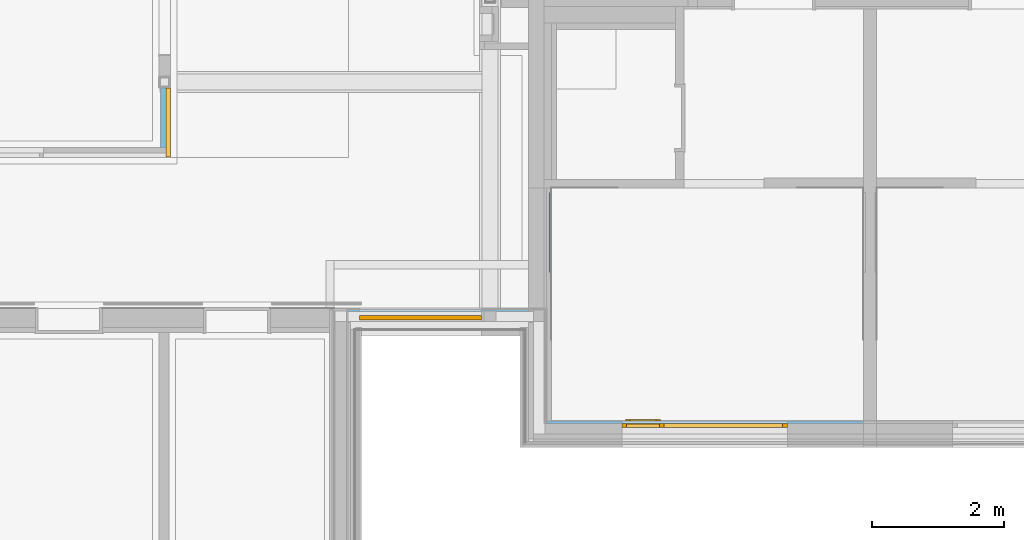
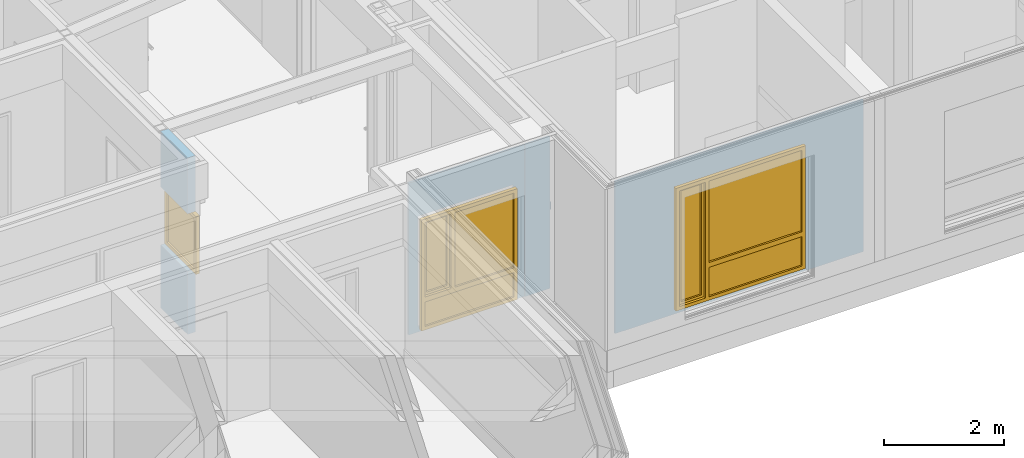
# One storey, part 120 of 207: 3 windows, 1 wall, 3 openings, plus 3 elements that do not belong to this part.
"""IFC4 building model written with IfcOpenShell, lengths in metres."""

from ifc_helpers import new_model, entity, si_unit, converted_unit, derived_unit, frame, frame_2d, origin, origin_with_axes, place, context, subcontext, project, spatial, polyline, rectangle, outline, extrude, closed_shell, open_shell, faceted_brep, surface_model, source, transform, mapped, material, element, fill, save


model = new_model("IFC4")

# Units and contexts
model_context = context("Model", 3, precision=1e-05, world=origin())
body_context = subcontext(model_context, "Body", "Model", "MODEL_VIEW")
ifc_project = project(units=[si_unit("LENGTHUNIT", "METRE"), si_unit("AREAUNIT", "SQUARE_METRE"), si_unit("VOLUMEUNIT", "CUBIC_METRE"), si_unit("MASSUNIT", "GRAM", prefix="KILO"), converted_unit("PLANEANGLEUNIT", "DEGREE", entity("IfcPlaneAngleMeasure", 0.0174532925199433), si_unit("PLANEANGLEUNIT", "RADIAN"), dimensions=[0, 0, 0, 0, 0, 0, 0]), derived_unit("THERMALTRANSMITTANCEUNIT", [(si_unit("POWERUNIT", "WATT"), 1), (si_unit("THERMODYNAMICTEMPERATUREUNIT", "KELVIN"), -1), (si_unit("LENGTHUNIT", "METRE"), -2)]), derived_unit("VOLUMETRICFLOWRATEUNIT", [(si_unit("LENGTHUNIT", "METRE"), 3), (converted_unit("TIMEUNIT", "hour", entity("IfcTimeMeasure", 3600.0), si_unit("TIMEUNIT", "SECOND"), dimensions=[0, 0, 1, 0, 0, 0, 0]), -1), (si_unit("LENGTHUNIT", "METRE"), -1)])], contexts=[model_context])

# Site, building, storey
site_placement = place(None, origin())
site = spatial("IfcSite", under=ifc_project, at=site_placement, Name="Psychiatrie Neubau Wunstorf", CompositionType="ELEMENT")
building_placement = place(site_placement, origin())
building = spatial("IfcBuilding", under=site, at=building_placement, Name="Neubau H2 Stationsgebäude", CompositionType="ELEMENT")
storey_placement = place(building_placement, frame((0.0, 0.0, -0.2)))
storey = spatial("IfcBuildingStorey", under=building, at=storey_placement, Name="H2 Ebene 0", CompositionType="ELEMENT", Elevation=-0.2)

# Wall, opening, window
ifc_material_1 = material(Name="WA-LB")
wall_1_placement = place(storey_placement, frame((75.9, -1.16399999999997, 0.5), z_axis=(0.0, 0.0, 1.0), x_axis=(-1.0, -1.5193062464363e-15, 0.0)))
wall_1 = element("IfcWall", 1, at=wall_1_placement, inside=storey, material=ifc_material_1, context=body_context, shape_type="SweptSolid", body=[
    extrude(rectangle(XDim=4.78899999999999, YDim=0.036, at=frame_2d((2.39449999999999, 0.018), x_axis=(1.0, 0.0))), origin_with_axes(), (0.0, 0.0, 1.0), 3.1),
])
opening_1_placement = place(wall_1_placement, frame((1.14999995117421, 0.0, 0.1), z_axis=(0.0, 1.0, 0.0), x_axis=(0.0, 0.0, 1.0)))
opening_1 = element("IfcOpeningElement", 2, at=opening_1_placement, cuts=wall_1, Name="Fensteröffnung", ObjectType="Opening", context=body_context, shape_type="SweptSolid", body=[
    extrude(outline(polyline([(2.5, 2.5), (2.5, 0.0), (0.0, 0.0), (0.0, 2.5), (2.5, 2.5)])), origin_with_axes(), (0.0, 0.0, 1.0), 0.036),
])
shared_shape_1 = source(origin_with_axes(), body_context, "Body", "SurfaceModel", [
    surface_model("IfcShellBasedSurfaceModel", [(2.5, 0.0, 2.5), (2.5, 0.0, 0.0), (2.43, 0.0, 0.0), (2.43, 0.0, 2.5), (2.5, 0.0699999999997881, 0.0), (2.5, 0.0699999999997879, 2.5), (2.43, 0.0699999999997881, 2.5), (2.43, 0.0699999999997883, 0.0)], [closed_shell([[[0, 1, 2, 3]], [[4, 5, 6, 7]], [[1, 0, 5, 4]], [[2, 1, 4, 7]], [[3, 2, 7, 6]], [[0, 3, 6, 5]]], orient=[[False], [False], [False], [False], [False], [False]])]),
    surface_model("IfcShellBasedSurfaceModel", [(0.07, 0.0, 2.5), (0.07, 0.0, 0.0), (0.0, 0.0, 0.0), (0.0, 0.0, 2.5), (0.07, 0.0699999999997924, 0.0), (0.07, 0.069999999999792, 2.5), (0.0, 0.069999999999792, 2.5), (0.0, 0.0699999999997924, 0.0)], [closed_shell([[[0, 1, 2, 3]], [[4, 5, 6, 7]], [[1, 0, 5, 4]], [[2, 1, 4, 7]], [[3, 2, 7, 6]], [[0, 3, 6, 5]]], orient=[[False], [False], [False], [False], [False], [False]])]),
    surface_model("IfcShellBasedSurfaceModel", [(2.43, 0.0, 0.07), (2.43, 0.0, 0.0), (0.07, 0.0, 0.0), (0.07, 0.0, 0.07), (2.43, 0.0699999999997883, 0.0), (2.43, 0.0699999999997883, 0.07), (0.07, 0.0699999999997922, 0.07), (0.07, 0.0699999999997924, 0.0)], [closed_shell([[[0, 1, 2, 3]], [[4, 5, 6, 7]], [[1, 0, 5, 4]], [[2, 1, 4, 7]], [[3, 2, 7, 6]], [[0, 3, 6, 5]]], orient=[[False], [False], [False], [False], [False], [False]])]),
    surface_model("IfcShellBasedSurfaceModel", [(2.43, 0.0, 2.5), (2.43, 0.0, 2.43), (0.07, 0.0, 2.43), (0.07, 0.0, 2.5), (2.43, 0.0699999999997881, 2.43), (2.43, 0.0699999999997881, 2.5), (0.07, 0.069999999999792, 2.5), (0.07, 0.069999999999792, 2.43)], [closed_shell([[[0, 1, 2, 3]], [[4, 5, 6, 7]], [[1, 0, 5, 4]], [[2, 1, 4, 7]], [[3, 2, 7, 6]], [[0, 3, 6, 5]]], orient=[[False], [False], [False], [False], [False], [False]])]),
    surface_model("IfcShellBasedSurfaceModel", [(1.934285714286, 0.0, 2.43), (1.934285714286, 0.0, 0.07), (1.864285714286, 0.0, 0.07), (1.864285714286, 0.0, 2.43), (1.934285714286, 0.0699999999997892, 0.07), (1.934285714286, 0.0699999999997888, 2.43), (1.864285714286, 0.0699999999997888, 2.43), (1.864285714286, 0.0699999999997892, 0.07)], [closed_shell([[[0, 1, 2, 3]], [[4, 5, 6, 7]], [[1, 0, 5, 4]], [[2, 1, 4, 7]], [[3, 2, 7, 6]], [[0, 3, 6, 5]]], orient=[[False], [False], [False], [False], [False], [False]])]),
    surface_model("IfcShellBasedSurfaceModel", [(2.45, -0.0500000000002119, 2.45), (2.45, -0.0500000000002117, 0.05), (2.38, -0.0500000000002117, 0.05), (2.38, -0.0500000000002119, 2.45), (2.45, 0.0199999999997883, 0.05), (2.45, 0.0199999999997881, 2.45), (2.38, 0.0199999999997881, 2.45), (2.38, 0.0199999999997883, 0.05)], [closed_shell([[[0, 1, 2, 3]], [[4, 5, 6, 7]], [[1, 0, 5, 4]], [[2, 1, 4, 7]], [[3, 2, 7, 6]], [[0, 3, 6, 5]]], orient=[[False], [False], [False], [False], [False], [False]])]),
    surface_model("IfcShellBasedSurfaceModel", [(1.984285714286, -0.0500000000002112, 2.45), (1.984285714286, -0.0500000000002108, 0.05), (1.914285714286, -0.0500000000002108, 0.05), (1.914285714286, -0.0500000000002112, 2.45), (1.984285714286, 0.019999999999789, 0.05), (1.984285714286, 0.0199999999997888, 2.45), (1.914285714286, 0.0199999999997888, 2.45), (1.914285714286, 0.0199999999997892, 0.05)], [closed_shell([[[0, 1, 2, 3]], [[4, 5, 6, 7]], [[1, 0, 5, 4]], [[2, 1, 4, 7]], [[3, 2, 7, 6]], [[0, 3, 6, 5]]], orient=[[False], [False], [False], [False], [False], [False]])]),
    surface_model("IfcShellBasedSurfaceModel", [(2.38, -0.0500000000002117, 0.12), (2.38, -0.0500000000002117, 0.05), (1.984285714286, -0.0500000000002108, 0.05), (1.984285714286, -0.050000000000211, 0.12), (2.38, 0.0199999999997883, 0.05), (2.38, 0.0199999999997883, 0.12), (1.984285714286, 0.019999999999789, 0.12), (1.984285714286, 0.019999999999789, 0.05)], [closed_shell([[[0, 1, 2, 3]], [[4, 5, 6, 7]], [[1, 0, 5, 4]], [[2, 1, 4, 7]], [[3, 2, 7, 6]], [[0, 3, 6, 5]]], orient=[[False], [False], [False], [False], [False], [False]])]),
    surface_model("IfcShellBasedSurfaceModel", [(2.38, -0.0500000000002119, 2.45), (2.38, -0.0500000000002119, 2.38), (1.984285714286, -0.0500000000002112, 2.38), (1.984285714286, -0.0500000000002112, 2.45), (2.38, 0.0199999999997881, 2.38), (2.38, 0.0199999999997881, 2.45), (1.984285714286, 0.0199999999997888, 2.45), (1.984285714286, 0.0199999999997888, 2.38)], [closed_shell([[[0, 1, 2, 3]], [[4, 5, 6, 7]], [[1, 0, 5, 4]], [[2, 1, 4, 7]], [[3, 2, 7, 6]], [[0, 3, 6, 5]]], orient=[[False], [False], [False], [False], [False], [False]])]),
    surface_model("IfcShellBasedSurfaceModel", [(1.864285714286, 0.0, 0.77), (1.864285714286, 0.0, 0.67), (0.07, 0.0, 0.67), (0.07, 0.0, 0.77), (1.864285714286, 0.069999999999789, 0.67), (1.864285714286, 0.069999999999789, 0.77), (0.07, 0.0699999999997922, 0.77), (0.07, 0.0699999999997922, 0.67)], [closed_shell([[[0, 1, 2, 3]], [[4, 5, 6, 7]], [[1, 0, 5, 4]], [[2, 1, 4, 7]], [[3, 2, 7, 6]], [[0, 3, 6, 5]]], orient=[[False], [False], [False], [False], [False], [False]])]),
    surface_model("IfcShellBasedSurfaceModel", [(2.38, -0.0150000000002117, 0.12), (1.984285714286, -0.015000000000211, 0.12), (1.984285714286, -0.0150000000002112, 2.38), (2.38, -0.0150000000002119, 2.38)], [open_shell([[[0, 1, 2, 3]]], orient=[[False]])]),
    surface_model("IfcShellBasedSurfaceModel", [(1.864285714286, 0.0349999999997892, 0.07), (0.07, 0.0349999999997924, 0.07), (0.07, 0.0349999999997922, 0.67), (1.864285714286, 0.034999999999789, 0.67)], [open_shell([[[0, 1, 2, 3]]], orient=[[False]])]),
    surface_model("IfcShellBasedSurfaceModel", [(1.864285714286, 0.034999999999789, 0.77), (0.07, 0.0349999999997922, 0.77), (0.07, 0.034999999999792, 2.43), (1.864285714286, 0.0349999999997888, 2.43)], [open_shell([[[0, 1, 2, 3]]], orient=[[False]])]),
])
window_1_placement = place(opening_1_placement, frame((0.0, 0.0, 0.03), z_axis=(1.0, 0.0, 0.0), x_axis=(0.0, 1.0, -6.41147235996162e-17)))
window_1 = element("IfcWindow", 3, at=window_1_placement, inside=storey, Name="Fenster", OverallHeight=2.5, OverallWidth=2.5, PartitioningType="USERDEFINED", PredefinedType="WINDOW", context=body_context, shape_type="MappedRepresentation", body=[
    mapped(shared_shape_1, transform((0.0, 0.0, 0.0), x_axis=(1.0, 0.0, 0.0), y_axis=(0.0, 1.0, 0.0), z_axis=(0.0, 0.0, 1.0), scale=1.0)),
])
fill(opening_1, window_1)

ifc_material_2 = material(Name="WA-LB")
wall_2_placement = place(storey_placement, frame((70.835, 0.523502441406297, 0.5), z_axis=(0.0, 0.0, 1.0), x_axis=(-1.0, 3.74997815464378e-16, 0.0)))
wall_2 = element("IfcWall", 4, at=wall_2_placement, inside=storey, material=ifc_material_2, context=body_context, shape_type="SweptSolid", body=[
    extrude(outline(polyline([(-2.72849999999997, -0.0360000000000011), (0.0, -0.0360000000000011), (0.0, 0.0), (-2.0224999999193, 0.0), (-2.0224999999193, -0.0124938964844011), (-2.0584999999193, -0.0124938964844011), (-2.0584999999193, -0.0125000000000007), (-2.23849999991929, -0.0125000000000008), (-2.23849999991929, 0.0), (-2.72849999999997, 0.0), (-2.72849999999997, -0.0360000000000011)])), frame((2.72849999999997, 0.0360000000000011, 0.0), z_axis=(0.0, 0.0, 1.0), x_axis=(1.0, 0.0, 0.0)), (0.0, 0.0, 1.0), 3.1),
])
opening_2_placement = place(wall_2_placement, frame((2.55400500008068, 0.0360000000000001, 0.1), z_axis=(0.0, -1.0, 0.0), x_axis=(0.0, 0.0, 1.0)))
opening_2 = element("IfcOpeningElement", 5, at=opening_2_placement, cuts=wall_2, Name="Fensteröffnung", ObjectType="Opening", context=body_context, shape_type="SweptSolid", body=[
    extrude(outline(polyline([(2.26, 1.848005), (2.26, 0.0), (0.0, 0.0), (0.0, 1.848005), (2.26, 1.848005)])), origin_with_axes(), (0.0, 0.0, 1.0), 0.0360000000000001),
])
shared_shape_2 = source(origin_with_axes(), body_context, "Body", "SurfaceModel", [
    surface_model("IfcShellBasedSurfaceModel", [(1.85662595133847, 0.000847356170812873, 2.26), (1.85662595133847, 0.000847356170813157, 0.0), (1.78662595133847, 0.0008473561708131, 0.0), (1.78662595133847, 0.000847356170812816, 2.26), (1.85662595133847, 0.0708473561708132, 0.0), (1.85662595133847, 0.0708473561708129, 2.26), (1.78662595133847, 0.0708473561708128, 2.26), (1.78662595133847, 0.0708473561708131, 0.0)], [closed_shell([[[0, 1, 2, 3]], [[4, 5, 6, 7]], [[1, 0, 5, 4]], [[2, 1, 4, 7]], [[3, 2, 7, 6]], [[0, 3, 6, 5]]], orient=[[False], [False], [False], [False], [False], [False]])]),
    surface_model("IfcShellBasedSurfaceModel", [(0.0786209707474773, 0.000847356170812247, 2.26), (0.0786209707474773, 0.000847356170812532, 0.0), (0.00862097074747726, 0.000847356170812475, 0.0), (0.00862097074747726, 0.000847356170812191, 2.26), (0.0786209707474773, 0.0708473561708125, 0.0), (0.0786209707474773, 0.0708473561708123, 2.26), (0.00862097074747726, 0.0708473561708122, 2.26), (0.00862097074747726, 0.0708473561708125, 0.0)], [closed_shell([[[0, 1, 2, 3]], [[4, 5, 6, 7]], [[1, 0, 5, 4]], [[2, 1, 4, 7]], [[3, 2, 7, 6]], [[0, 3, 6, 5]]], orient=[[False], [False], [False], [False], [False], [False]])]),
    surface_model("IfcShellBasedSurfaceModel", [(1.78662595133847, 0.0008473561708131, 0.07), (1.78662595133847, 0.0008473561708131, 0.0), (0.0786209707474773, 0.000847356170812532, 0.0), (0.0786209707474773, 0.000847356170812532, 0.07), (1.78662595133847, 0.0708473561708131, 0.0), (1.78662595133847, 0.0708473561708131, 0.07), (0.0786209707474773, 0.0708473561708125, 0.07), (0.0786209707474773, 0.0708473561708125, 0.0)], [closed_shell([[[0, 1, 2, 3]], [[4, 5, 6, 7]], [[1, 0, 5, 4]], [[2, 1, 4, 7]], [[3, 2, 7, 6]], [[0, 3, 6, 5]]], orient=[[False], [False], [False], [False], [False], [False]])]),
    surface_model("IfcShellBasedSurfaceModel", [(1.78662595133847, 0.000847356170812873, 2.26), (1.78662595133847, 0.000847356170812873, 2.19), (0.0786209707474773, 0.000847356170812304, 2.19), (0.0786209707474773, 0.000847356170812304, 2.26), (1.78662595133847, 0.0708473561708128, 2.19), (1.78662595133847, 0.0708473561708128, 2.26), (0.0786209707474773, 0.0708473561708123, 2.26), (0.0786209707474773, 0.0708473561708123, 2.19)], [closed_shell([[[0, 1, 2, 3]], [[4, 5, 6, 7]], [[1, 0, 5, 4]], [[2, 1, 4, 7]], [[3, 2, 7, 6]], [[0, 3, 6, 5]]], orient=[[False], [False], [False], [False], [False], [False]])]),
    surface_model("IfcShellBasedSurfaceModel", [(1.78662595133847, 0.000847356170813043, 0.67), (1.78662595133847, 0.000847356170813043, 0.57), (0.0786209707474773, 0.000847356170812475, 0.57), (0.0786209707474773, 0.000847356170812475, 0.67), (1.78662595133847, 0.070847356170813, 0.57), (1.78662595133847, 0.070847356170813, 0.67), (0.0786209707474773, 0.0708473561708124, 0.67), (0.0786209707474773, 0.0708473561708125, 0.57)], [closed_shell([[[0, 1, 2, 3]], [[4, 5, 6, 7]], [[1, 0, 5, 4]], [[2, 1, 4, 7]], [[3, 2, 7, 6]], [[0, 3, 6, 5]]], orient=[[False], [False], [False], [False], [False], [False]])]),
    surface_model("IfcShellBasedSurfaceModel", [(1.78662595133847, 0.0358473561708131, 0.07), (0.0786209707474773, 0.0358473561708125, 0.07), (0.0786209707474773, 0.0358473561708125, 0.57), (1.78662595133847, 0.035847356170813, 0.57)], [open_shell([[[0, 1, 2, 3]]], orient=[[False]])]),
    surface_model("IfcShellBasedSurfaceModel", [(1.28662595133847, 0.000847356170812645, 2.19), (1.28662595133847, 0.000847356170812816, 0.67), (1.21662595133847, 0.000847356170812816, 0.67), (1.21662595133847, 0.000847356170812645, 2.19), (1.28662595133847, 0.0708473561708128, 0.67), (1.28662595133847, 0.0708473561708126, 2.19), (1.21662595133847, 0.0708473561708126, 2.19), (1.21662595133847, 0.0708473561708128, 0.67)], [closed_shell([[[0, 1, 2, 3]], [[4, 5, 6, 7]], [[1, 0, 5, 4]], [[2, 1, 4, 7]], [[3, 2, 7, 6]], [[0, 3, 6, 5]]], orient=[[False], [False], [False], [False], [False], [False]])]),
    surface_model("IfcShellBasedSurfaceModel", [(1.80662595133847, -0.0491526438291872, 2.21), (1.80662595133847, -0.049152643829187, 0.65), (1.73662595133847, -0.049152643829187, 0.65), (1.73662595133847, -0.0491526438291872, 2.21), (1.80662595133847, 0.020847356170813, 0.65), (1.80662595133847, 0.0208473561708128, 2.21), (1.73662595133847, 0.0208473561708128, 2.21), (1.73662595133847, 0.020847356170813, 0.65)], [closed_shell([[[0, 1, 2, 3]], [[4, 5, 6, 7]], [[1, 0, 5, 4]], [[2, 1, 4, 7]], [[3, 2, 7, 6]], [[0, 3, 6, 5]]], orient=[[False], [False], [False], [False], [False], [False]])]),
    surface_model("IfcShellBasedSurfaceModel", [(1.33662595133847, -0.0491526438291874, 2.21), (1.33662595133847, -0.0491526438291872, 0.65), (1.26662595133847, -0.0491526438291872, 0.65), (1.26662595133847, -0.0491526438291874, 2.21), (1.33662595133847, 0.0208473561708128, 0.65), (1.33662595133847, 0.0208473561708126, 2.21), (1.26662595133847, 0.0208473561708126, 2.21), (1.26662595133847, 0.0208473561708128, 0.65)], [closed_shell([[[0, 1, 2, 3]], [[4, 5, 6, 7]], [[1, 0, 5, 4]], [[2, 1, 4, 7]], [[3, 2, 7, 6]], [[0, 3, 6, 5]]], orient=[[False], [False], [False], [False], [False], [False]])]),
    surface_model("IfcShellBasedSurfaceModel", [(1.73662595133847, -0.049152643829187, 0.72), (1.73662595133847, -0.049152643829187, 0.65), (1.33662595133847, -0.0491526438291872, 0.65), (1.33662595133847, -0.0491526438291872, 0.72), (1.73662595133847, 0.020847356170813, 0.65), (1.73662595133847, 0.020847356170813, 0.72), (1.33662595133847, 0.0208473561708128, 0.72), (1.33662595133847, 0.0208473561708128, 0.65)], [closed_shell([[[0, 1, 2, 3]], [[4, 5, 6, 7]], [[1, 0, 5, 4]], [[2, 1, 4, 7]], [[3, 2, 7, 6]], [[0, 3, 6, 5]]], orient=[[False], [False], [False], [False], [False], [False]])]),
    surface_model("IfcShellBasedSurfaceModel", [(1.73662595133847, -0.0491526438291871, 2.21), (1.73662595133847, -0.0491526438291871, 2.14), (1.33662595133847, -0.0491526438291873, 2.14), (1.33662595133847, -0.0491526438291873, 2.21), (1.73662595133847, 0.0208473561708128, 2.14), (1.73662595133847, 0.0208473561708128, 2.21), (1.33662595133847, 0.0208473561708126, 2.21), (1.33662595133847, 0.0208473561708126, 2.14)], [closed_shell([[[0, 1, 2, 3]], [[4, 5, 6, 7]], [[1, 0, 5, 4]], [[2, 1, 4, 7]], [[3, 2, 7, 6]], [[0, 3, 6, 5]]], orient=[[False], [False], [False], [False], [False], [False]])]),
    surface_model("IfcShellBasedSurfaceModel", [(1.21662595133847, 0.0358473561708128, 0.67), (0.0786209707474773, 0.0358473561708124, 0.67), (0.0786209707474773, 0.0358473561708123, 2.19), (1.21662595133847, 0.0358473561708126, 2.19)], [open_shell([[[0, 1, 2, 3]]], orient=[[False]])]),
    surface_model("IfcShellBasedSurfaceModel", [(1.73662595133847, -0.014152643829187, 0.72), (1.33662595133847, -0.0141526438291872, 0.72), (1.33662595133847, -0.0141526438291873, 2.14), (1.73662595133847, -0.0141526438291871, 2.14)], [open_shell([[[0, 1, 2, 3]]], orient=[[False]])]),
])
window_2_placement = place(opening_2_placement, frame((0.0, 1.85662595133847, -0.0581521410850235), z_axis=(1.0, 0.0, 0.0), x_axis=(0.0, -1.0, -2.25654857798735e-17)))
window_2 = element("IfcWindow", 6, at=window_2_placement, inside=storey, Name="Fenster", OverallHeight=2.26, OverallWidth=1.848, PartitioningType="USERDEFINED", PredefinedType="WINDOW", context=body_context, shape_type="MappedRepresentation", body=[
    mapped(shared_shape_2, transform((0.0, 0.0, 0.0), x_axis=(1.0, 0.0, 0.0), y_axis=(0.0, 1.0, 0.0), z_axis=(0.0, 0.0, 1.0), scale=1.0)),
])
fill(opening_2, window_2)

# Wall
wall_3_placement = place(storey_placement, frame((71.161, 1.08720000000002, 1.625)))
element("IfcWall", 7, at=wall_3_placement, inside=storey, Name="WV 1.1", context=body_context, shape_type="Brep", body=[
    faceted_brep([(0.025, 1.2, 0.0), (0.0, 1.2, 0.0), (0.0, 0.0, 0.0), (0.025, 0.0, 0.0), (0.0, 1.2, 0.15), (0.025, 1.2, 0.15), (0.025, 0.0, 0.15), (0.0, 0.0, 0.15)], [[[0, 1, 2, 3]], [[4, 5, 6, 7]], [[1, 0, 5, 4]], [[2, 1, 4, 7]], [[3, 2, 7, 6]], [[0, 3, 6, 5]]], orient=[[False], [False], [False], [False], [False], [False]]),
])

# Wall, opening, window
ifc_material_3 = material(Name="WI-RIR")
wall_4_placement = place(storey_placement, frame((65.4249963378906, 2.96750096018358, 0.0), z_axis=(0.0, 0.0, 1.0), x_axis=(0.0, 1.0, 0.0)))
wall_4 = element("IfcWall", 8, at=wall_4_placement, inside=storey, material=ifc_material_3, context=body_context, shape_type="SweptSolid", body=[
    extrude(outline(polyline([(0.0, -0.15), (0.902495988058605, -0.15), (0.902495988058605, 0.0), (3.80844783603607e-06, 0.0), (0.0, -0.15)])), frame((0.0, 0.15, 0.0), z_axis=(0.0, 0.0, 1.0), x_axis=(1.0, 0.0, 0.0)), (0.0, 0.0, 1.0), 3.6),
])
opening_3_placement = place(wall_4_placement, frame((-0.150000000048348, 0.0, 1.28)))
opening_3 = element("IfcOpeningElement", 9, at=opening_3_placement, cuts=wall_4, Name="Fensteröffnung", ObjectType="Opening", context=body_context, shape_type="SweptSolid", body=[
    extrude(outline(polyline([(0.0, 0.0), (1.05249598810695, 0.0), (1.05249598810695, 0.15), (3.80844783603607e-06, 0.15), (0.0, 0.0)])), origin_with_axes(), (0.0, 0.0, 1.0), 1.18),
])
shared_shape_3 = source(origin_with_axes(), body_context, "Body", "SurfaceModel", [
    surface_model("IfcShellBasedSurfaceModel", [(0.0, 0.0, 0.0), (0.0, 0.0, 1.18), (0.07, 0.0, 1.18), (0.07, 0.0, 0.0), (0.07, 0.07, 1.18), (0.07, 0.07, 0.0), (0.0, 0.07, 1.18), (0.0, 0.07, 0.0)], [closed_shell([[[0, 1, 2, 3]], [[3, 2, 4, 5]], [[5, 4, 6, 7]], [[7, 6, 1, 0]], [[0, 3, 5, 7]], [[1, 6, 4, 2]]], orient=[[False], [False], [False], [False], [False], [False]])]),
    surface_model("IfcShellBasedSurfaceModel", [(0.972495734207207, 0.0, 0.0), (0.972495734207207, 0.0, 1.18), (1.04249573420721, 0.0, 1.18), (1.04249573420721, 0.0, 0.0), (1.04249573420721, 0.07, 1.18), (1.04249573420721, 0.07, 0.0), (0.972495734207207, 0.07, 1.18), (0.972495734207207, 0.07, 0.0)], [closed_shell([[[0, 1, 2, 3]], [[3, 2, 4, 5]], [[5, 4, 6, 7]], [[7, 6, 1, 0]], [[0, 3, 5, 7]], [[1, 6, 4, 2]]], orient=[[False], [False], [False], [False], [False], [False]])]),
    surface_model("IfcShellBasedSurfaceModel", [(0.07, 0.07, 0.0), (0.07, 0.0, 0.0), (0.972495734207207, 0.0, 0.0), (0.972495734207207, 0.07, 0.0), (0.07, 0.0, 0.07), (0.07, 0.07, 0.07), (0.972495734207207, 0.07, 0.07), (0.972495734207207, 0.0, 0.07)], [closed_shell([[[0, 1, 2, 3]], [[4, 5, 6, 7]], [[1, 0, 5, 4]], [[2, 1, 4, 7]], [[3, 2, 7, 6]], [[0, 3, 6, 5]]], orient=[[False], [False], [False], [False], [False], [False]])]),
    surface_model("IfcShellBasedSurfaceModel", [(0.07, 0.07, 1.11), (0.07, 0.0, 1.11), (0.972495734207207, 0.0, 1.11), (0.972495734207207, 0.07, 1.11), (0.07, 0.0, 1.18), (0.07, 0.07, 1.18), (0.972495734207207, 0.07, 1.18), (0.972495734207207, 0.0, 1.18)], [closed_shell([[[0, 1, 2, 3]], [[4, 5, 6, 7]], [[1, 0, 5, 4]], [[2, 1, 4, 7]], [[3, 2, 7, 6]], [[0, 3, 6, 5]]], orient=[[False], [False], [False], [False], [False], [False]])]),
    surface_model("IfcShellBasedSurfaceModel", [(0.07, 0.035, 0.07), (0.972495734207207, 0.035, 0.07), (0.972495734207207, 0.035, 1.11), (0.07, 0.035, 1.11)], [open_shell([[[0, 1, 2, 3]]], orient=[[False]])]),
])
window_3_placement = place(opening_3_placement, frame((0.0100002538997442, 0.0, 0.0), z_axis=(0.0, 0.0, 1.0), x_axis=(1.0, -1.22464679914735e-16, 0.0)))
window_3 = element("IfcWindow", 10, at=window_3_placement, inside=storey, Name="wi_1c_white", OverallHeight=1.18, OverallWidth=1.0425, PartitioningType="USERDEFINED", PredefinedType="WINDOW", context=body_context, shape_type="MappedRepresentation", body=[
    mapped(shared_shape_3, transform((0.0, 0.0, 0.0), x_axis=(1.0, 0.0, 0.0), y_axis=(0.0, 1.0, 0.0), z_axis=(0.0, 0.0, 1.0), scale=1.0)),
])
fill(opening_3, window_3)

save(model, "model.ifc")
